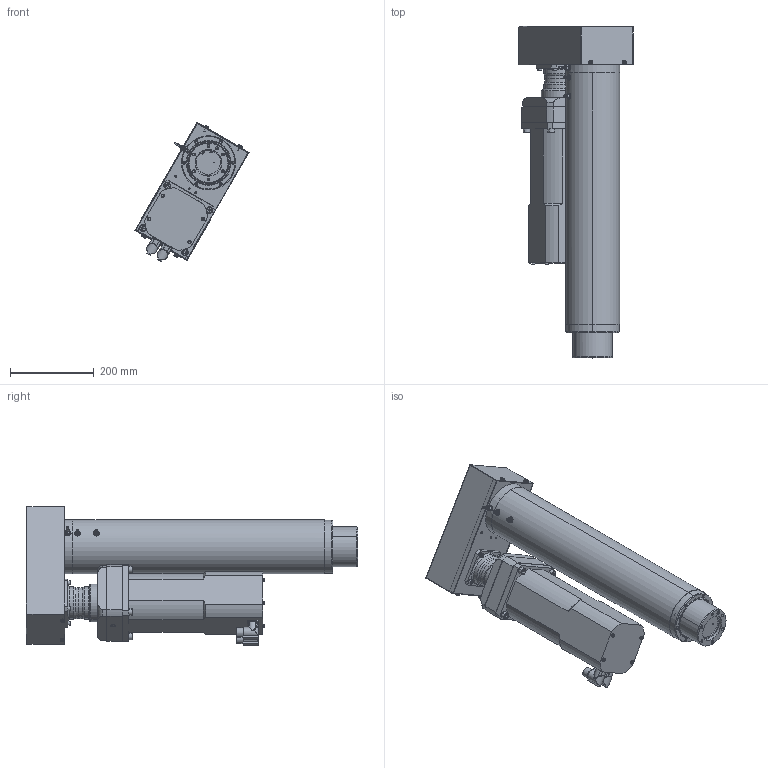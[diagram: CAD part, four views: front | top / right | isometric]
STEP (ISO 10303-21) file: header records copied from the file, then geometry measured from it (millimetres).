
FILE_DESCRIPTION (( 'STEP AP214' ), '1' );
FILE_NAME ('RLWPK030D-035-025HG0.STEP', '2023-04-05T14:22:20', ( '' ), ( '' ), 'SwSTEP 2.0', 'SolidWorks 2021', '' );
FILE_SCHEMA (( 'AUTOMOTIVE_DESIGN' ));
Length unit declared in the file: millimetre
Products named in the file (1): RLWPK030D-035-025HG0
Bounding box: 272.28 x 792.5 x 331.26 mm (x, y, z)
Volume: 13097634.6 mm3; surface area: 1520196.5 mm2
Topology: 30 solids, 30 shells, 1173 faces, 2774 edges, 1667 vertices
Faces by surface type: cylinder 475, plane 420, cone 202, torus 68, bspline 6, sphere 2
Entity records: 47841 total; most frequent: CARTESIAN_POINT 7355, DIRECTION 6069, ORIENTED_EDGE 5300, EDGE_CURVE 2650, AXIS2_PLACEMENT_3D 2371, VERTEX_POINT 1667, EDGE_LOOP 1403, VECTOR 1327
